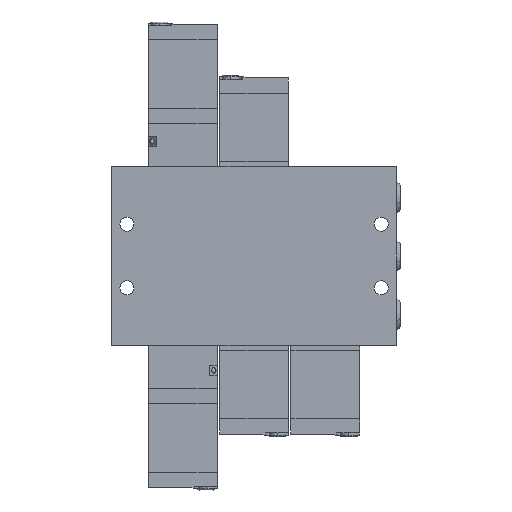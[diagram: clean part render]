
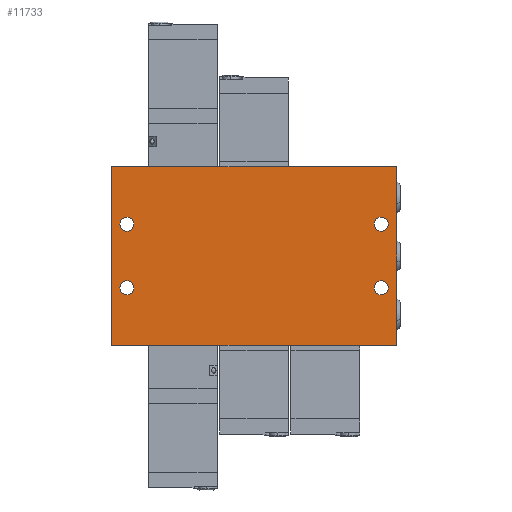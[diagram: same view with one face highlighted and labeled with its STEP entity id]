
A CAD part, front view. The second image highlights one B-rep face of the part: STEP entity #11733.
In plain terms, the highlighted planar face has unit normal (0, -1, 0).
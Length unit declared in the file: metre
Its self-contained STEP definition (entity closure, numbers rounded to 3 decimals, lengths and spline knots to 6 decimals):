
#346 = VERTEX_POINT ( 'NONE', #9006 ) ;
#374 = DIRECTION ( 'NONE',  ( 0., 0., 1. ) ) ;
#419 = VERTEX_POINT ( 'NONE', #10420 ) ;
#444 = FACE_BOUND ( 'NONE', #16229, .T. ) ;
#879 = VERTEX_POINT ( 'NONE', #15604 ) ;
#1027 = AXIS2_PLACEMENT_3D ( 'NONE', #4770, #6128, #15753 ) ;
#1089 = EDGE_CURVE ( 'NONE', #12203, #879, #13190, .T. ) ;
#1174 = EDGE_CURVE ( 'NONE', #879, #12203, #15557, .T. ) ;
#1202 = LINE ( 'NONE', #10786, #11199 ) ;
#1205 = CARTESIAN_POINT ( 'NONE',  ( -0.05275, -0.015, -0.0125 ) ) ;
#2023 = AXIS2_PLACEMENT_3D ( 'NONE', #12194, #3996, #13588 ) ;
#2389 = DIRECTION ( 'NONE',  ( 0., -1., 0. ) ) ;
#2608 = ORIENTED_EDGE ( 'NONE', *, *, #9766, .F. ) ;
#2673 = CARTESIAN_POINT ( 'NONE',  ( -0.05, -0.015, 0.0125 ) ) ;
#2735 = VERTEX_POINT ( 'NONE', #4717 ) ;
#2970 = LINE ( 'NONE', #15275, #17053 ) ;
#3281 = EDGE_CURVE ( 'NONE', #2735, #419, #16799, .T. ) ;
#3463 = LINE ( 'NONE', #11902, #17552 ) ;
#3521 = ORIENTED_EDGE ( 'NONE', *, *, #1089, .F. ) ;
#3569 = FACE_OUTER_BOUND ( 'NONE', #12813, .T. ) ;
#3580 = CARTESIAN_POINT ( 'NONE',  ( 0.05, -0.015, -0.0125 ) ) ;
#3996 = DIRECTION ( 'NONE',  ( 0., -1., 0. ) ) ;
#4025 = DIRECTION ( 'NONE',  ( -1., 0., 0. ) ) ;
#4102 = ORIENTED_EDGE ( 'NONE', *, *, #3281, .F. ) ;
#4316 = EDGE_CURVE ( 'NONE', #11897, #8958, #1202, .T. ) ;
#4423 = FACE_BOUND ( 'NONE', #6966, .T. ) ;
#4717 = CARTESIAN_POINT ( 'NONE',  ( 0.04725, -0.015, -0.0125 ) ) ;
#4770 = CARTESIAN_POINT ( 'NONE',  ( -0.056, -0.015, -0.035 ) ) ;
#4823 = CARTESIAN_POINT ( 'NONE',  ( -0.05, -0.015, -0.0125 ) ) ;
#4826 = ORIENTED_EDGE ( 'NONE', *, *, #10805, .F. ) ;
#4874 = AXIS2_PLACEMENT_3D ( 'NONE', #5277, #5296, #5361 ) ;
#4921 = DIRECTION ( 'NONE',  ( -1., 0., 0. ) ) ;
#5277 = CARTESIAN_POINT ( 'NONE',  ( 0.05, -0.015, 0.0125 ) ) ;
#5296 = DIRECTION ( 'NONE',  ( 0., -1., 0. ) ) ;
#5361 = DIRECTION ( 'NONE',  ( -1., 0., 0. ) ) ;
#5364 = AXIS2_PLACEMENT_3D ( 'NONE', #3580, #13146, #4921 ) ;
#5422 = EDGE_CURVE ( 'NONE', #7214, #7748, #11629, .T. ) ;
#6128 = DIRECTION ( 'NONE',  ( 0., 1., 0. ) ) ;
#6182 = DIRECTION ( 'NONE',  ( -1., 0., 0. ) ) ;
#6337 = ORIENTED_EDGE ( 'NONE', *, *, #12036, .F. ) ;
#6420 = ORIENTED_EDGE ( 'NONE', *, *, #4316, .T. ) ;
#6444 = CARTESIAN_POINT ( 'NONE',  ( 0., -0.015, -0.035 ) ) ;
#6762 = ORIENTED_EDGE ( 'NONE', *, *, #8866, .F. ) ;
#6966 = EDGE_LOOP ( 'NONE', ( #4102, #15794 ) ) ;
#7141 = FACE_BOUND ( 'NONE', #9120, .T. ) ;
#7214 = VERTEX_POINT ( 'NONE', #16942 ) ;
#7569 = FACE_BOUND ( 'NONE', #8110, .T. ) ;
#7748 = VERTEX_POINT ( 'NONE', #15730 ) ;
#7807 = EDGE_CURVE ( 'NONE', #419, #2735, #17325, .T. ) ;
#8110 = EDGE_LOOP ( 'NONE', ( #6762, #14562 ) ) ;
#8208 = CIRCLE ( 'NONE', #13837, 0.00275 ) ;
#8797 = AXIS2_PLACEMENT_3D ( 'NONE', #16673, #16730, #16746 ) ;
#8866 = EDGE_CURVE ( 'NONE', #11964, #346, #13297, .T. ) ;
#8958 = VERTEX_POINT ( 'NONE', #10403 ) ;
#9006 = CARTESIAN_POINT ( 'NONE',  ( -0.04725, -0.015, -0.0125 ) ) ;
#9120 = EDGE_LOOP ( 'NONE', ( #9537, #3521 ) ) ;
#9537 = ORIENTED_EDGE ( 'NONE', *, *, #1174, .F. ) ;
#9705 = CARTESIAN_POINT ( 'NONE',  ( 0.05275, -0.015, 0.0125 ) ) ;
#9766 = EDGE_CURVE ( 'NONE', #7748, #8958, #2970, .T. ) ;
#10391 = CIRCLE ( 'NONE', #2023, 0.00275 ) ;
#10403 = CARTESIAN_POINT ( 'NONE',  ( -0.056, -0.015, 0.035 ) ) ;
#10420 = CARTESIAN_POINT ( 'NONE',  ( 0.05275, -0.015, -0.0125 ) ) ;
#10502 = CARTESIAN_POINT ( 'NONE',  ( -0.05275, -0.015, 0.0125 ) ) ;
#10543 = CARTESIAN_POINT ( 'NONE',  ( -0.05, -0.015, -0.0125 ) ) ;
#10744 = ORIENTED_EDGE ( 'NONE', *, *, #15106, .T. ) ;
#10786 = CARTESIAN_POINT ( 'NONE',  ( 0., -0.015, 0.035 ) ) ;
#10805 = EDGE_CURVE ( 'NONE', #15458, #17055, #10391, .T. ) ;
#10888 = DIRECTION ( 'NONE',  ( -1., 0., 0. ) ) ;
#11199 = VECTOR ( 'NONE', #10888, 1. ) ;
#11266 = CARTESIAN_POINT ( 'NONE',  ( -0.04725, -0.015, 0.0125 ) ) ;
#11629 = LINE ( 'NONE', #6444, #14871 ) ;
#11733 = ADVANCED_FACE ( 'NONE', ( #7141, #7569, #444, #4423, #3569 ), #14404, .F. ) ;
#11897 = VERTEX_POINT ( 'NONE', #17393 ) ;
#11902 = CARTESIAN_POINT ( 'NONE',  ( 0.056, -0.015, 0. ) ) ;
#11934 = DIRECTION ( 'NONE',  ( -1., 0., 0. ) ) ;
#11964 = VERTEX_POINT ( 'NONE', #1205 ) ;
#12036 = EDGE_CURVE ( 'NONE', #17055, #15458, #8208, .T. ) ;
#12082 = ORIENTED_EDGE ( 'NONE', *, *, #5422, .F. ) ;
#12194 = CARTESIAN_POINT ( 'NONE',  ( -0.05, -0.015, 0.0125 ) ) ;
#12203 = VERTEX_POINT ( 'NONE', #9705 ) ;
#12218 = DIRECTION ( 'NONE',  ( 0., -1., 0. ) ) ;
#12256 = AXIS2_PLACEMENT_3D ( 'NONE', #14477, #14016, #14216 ) ;
#12649 = EDGE_CURVE ( 'NONE', #346, #11964, #15965, .T. ) ;
#12813 = EDGE_LOOP ( 'NONE', ( #10744, #6420, #2608, #12082 ) ) ;
#13146 = DIRECTION ( 'NONE',  ( 0., -1., 0. ) ) ;
#13190 = CIRCLE ( 'NONE', #4874, 0.00275 ) ;
#13297 = CIRCLE ( 'NONE', #17186, 0.00275 ) ;
#13321 = DIRECTION ( 'NONE',  ( -1., 0., 0. ) ) ;
#13588 = DIRECTION ( 'NONE',  ( -1., 0., 0. ) ) ;
#13837 = AXIS2_PLACEMENT_3D ( 'NONE', #2673, #12218, #4025 ) ;
#14016 = DIRECTION ( 'NONE',  ( 0., -1., 0. ) ) ;
#14216 = DIRECTION ( 'NONE',  ( -1., 0., 0. ) ) ;
#14404 = PLANE ( 'NONE',  #1027 ) ;
#14458 = DIRECTION ( 'NONE',  ( 0., -1., 0. ) ) ;
#14477 = CARTESIAN_POINT ( 'NONE',  ( 0.05, -0.015, 0.0125 ) ) ;
#14562 = ORIENTED_EDGE ( 'NONE', *, *, #12649, .F. ) ;
#14871 = VECTOR ( 'NONE', #13321, 1. ) ;
#15106 = EDGE_CURVE ( 'NONE', #7214, #11897, #3463, .T. ) ;
#15275 = CARTESIAN_POINT ( 'NONE',  ( -0.056, -0.015, 0. ) ) ;
#15458 = VERTEX_POINT ( 'NONE', #10502 ) ;
#15557 = CIRCLE ( 'NONE', #12256, 0.00275 ) ;
#15569 = AXIS2_PLACEMENT_3D ( 'NONE', #10543, #2389, #11934 ) ;
#15604 = CARTESIAN_POINT ( 'NONE',  ( 0.04725, -0.015, 0.0125 ) ) ;
#15730 = CARTESIAN_POINT ( 'NONE',  ( -0.056, -0.015, -0.035 ) ) ;
#15753 = DIRECTION ( 'NONE',  ( 0., 0., 1. ) ) ;
#15794 = ORIENTED_EDGE ( 'NONE', *, *, #7807, .F. ) ;
#15965 = CIRCLE ( 'NONE', #15569, 0.00275 ) ;
#16229 = EDGE_LOOP ( 'NONE', ( #4826, #6337 ) ) ;
#16673 = CARTESIAN_POINT ( 'NONE',  ( 0.05, -0.015, -0.0125 ) ) ;
#16730 = DIRECTION ( 'NONE',  ( 0., -1., 0. ) ) ;
#16746 = DIRECTION ( 'NONE',  ( -1., 0., 0. ) ) ;
#16799 = CIRCLE ( 'NONE', #8797, 0.00275 ) ;
#16942 = CARTESIAN_POINT ( 'NONE',  ( 0.056, -0.015, -0.035 ) ) ;
#17053 = VECTOR ( 'NONE', #374, 1. ) ;
#17055 = VERTEX_POINT ( 'NONE', #11266 ) ;
#17186 = AXIS2_PLACEMENT_3D ( 'NONE', #4823, #14458, #6182 ) ;
#17325 = CIRCLE ( 'NONE', #5364, 0.00275 ) ;
#17380 = DIRECTION ( 'NONE',  ( 0., 0., 1. ) ) ;
#17393 = CARTESIAN_POINT ( 'NONE',  ( 0.056, -0.015, 0.035 ) ) ;
#17552 = VECTOR ( 'NONE', #17380, 1. ) ;
